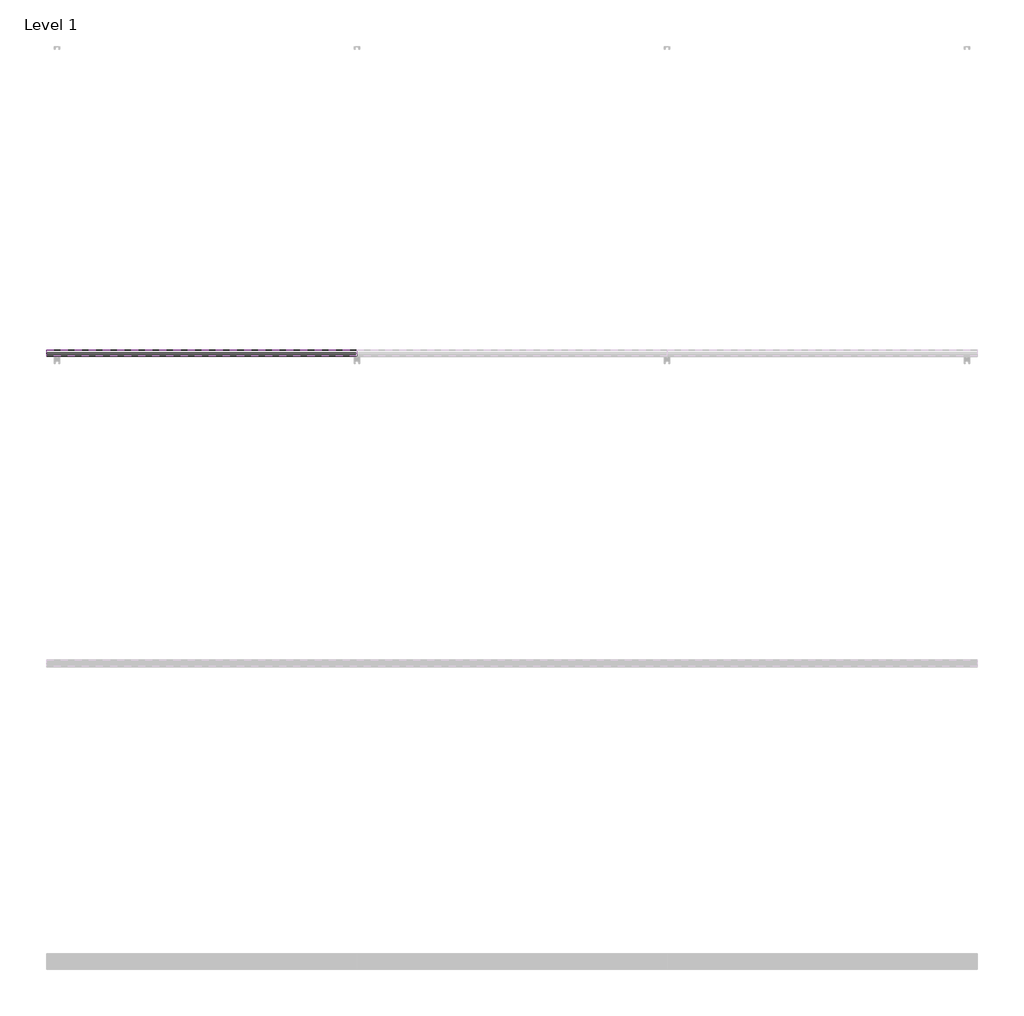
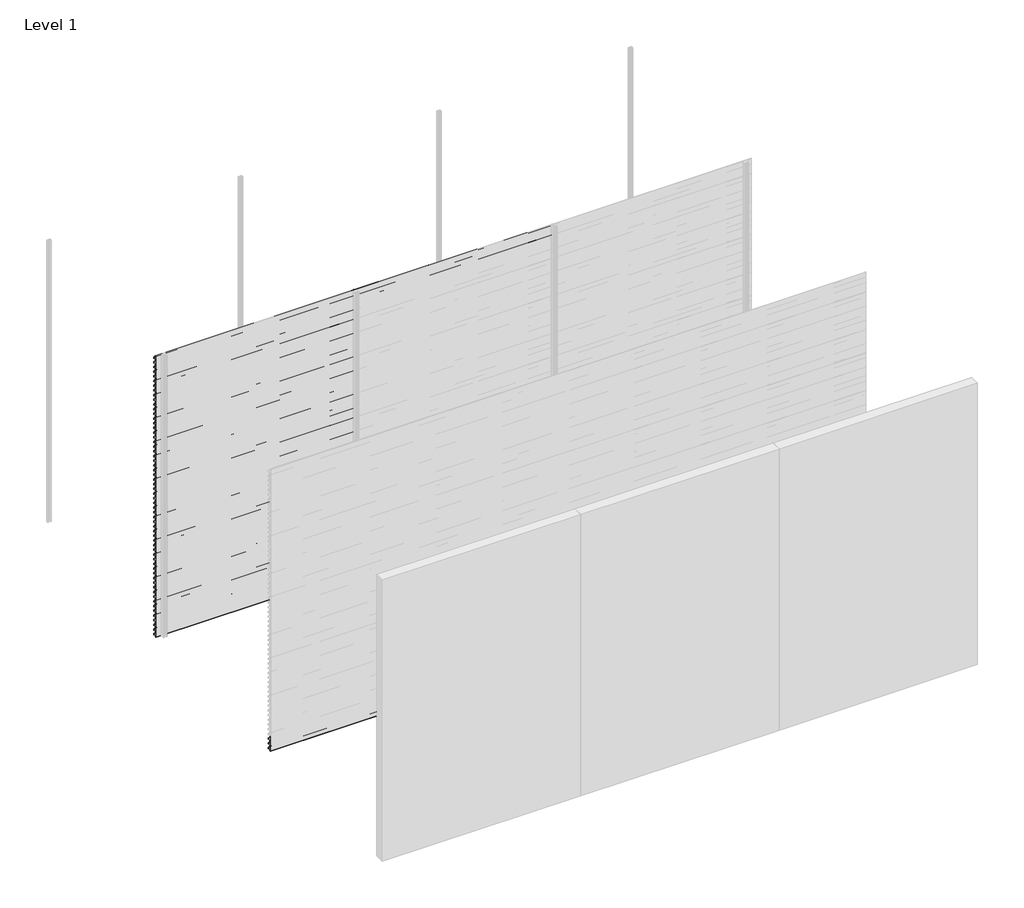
# One storey, part 29 of 38: 66 proxies.
"""IFC4 building model written with IfcOpenShell, lengths in millimetres."""

import ifcopenshell
import ifcopenshell.guid

model = None  # the IFC model being written
_history = None  # IfcOwnerHistory: only IFC2X3 demands one
_inside = {}  # id of a spatial element -> (the spatial element, [elements in it])
_under = {}  # id of a project, library or spatial element -> (it, [spatial elements below it])
_declared = {}  # id of a project -> (the project, [libraries it declares])
_typed = {}  # id of a type object -> (the type object, [elements of that type])
_made_of = {}  # id of a material, layer set ... -> (it, [elements and type objects made of it])


def new_model(schema):
    """Start an empty IFC model of exactly this schema.

    Asked for "IFC4X3", IfcOpenShell would pick the latest addendum, in which some entities
    have other attributes; the version numbers below select the first issue.
    IFC2X3 requires an IfcOwnerHistory on every rooted entity: one is made here for all.
    """
    global model, _history
    if schema == "IFC4X3":
        model = ifcopenshell.file(schema_version=(4, 3, 0, 0))
    else:
        model = ifcopenshell.file(schema=schema)
    _inside.clear()
    _under.clear()
    _declared.clear()
    _typed.clear()
    _made_of.clear()
    _history = None
    if model.schema == "IFC2X3":
        org = make("IfcOrganization", Name="unknown")
        user = make(
            "IfcPersonAndOrganization",
            ThePerson=make("IfcPerson", FamilyName="unknown"),
            TheOrganization=org,
        )
        app = make(
            "IfcApplication",
            ApplicationDeveloper=org,
            Version="unknown",
            ApplicationFullName="unknown",
            ApplicationIdentifier="unknown",
        )
        _history = make(
            "IfcOwnerHistory",
            OwningUser=user,
            OwningApplication=app,
            ChangeAction="ADDED",
            CreationDate=0,
        )
    return model


def make(cls, **values):
    """One entity of the class cls with the attributes given. An attribute that is None is left unset."""
    return model.create_entity(
        cls, **{name: value for name, value in values.items() if value is not None}
    )


def rooted(cls, **values):
    """An entity with a GlobalId (a new one), such as an element, a storey or a relation."""
    return make(cls, GlobalId=ifcopenshell.guid.new(), OwnerHistory=_history, **values)


def si_unit(unit_type, name, prefix=None):
    """IfcSIUnit, for example si_unit("LENGTHUNIT", "METRE", prefix="MILLI")."""
    return make("IfcSIUnit", UnitType=unit_type, Prefix=prefix, Name=name)


def assignment(units):
    """IfcUnitAssignment: the units of a project."""
    return None if units is None else make("IfcUnitAssignment", Units=units)


def point(xyz):
    """IfcCartesianPoint."""
    return None if xyz is None else make("IfcCartesianPoint", Coordinates=xyz)


def direction(xyz):
    """IfcDirection."""
    return None if xyz is None else make("IfcDirection", DirectionRatios=xyz)


def frame(location, z_axis=None, x_axis=None):
    """IfcAxis2Placement3D, a coordinate frame: its origin and axes. An axis left out is left unset."""
    return make(
        "IfcAxis2Placement3D",
        Location=point(location),
        Axis=direction(z_axis),
        RefDirection=direction(x_axis),
    )


def origin():
    """The frame at (0, 0, 0) with its axes left unset."""
    return frame((0.0, 0.0, 0.0))


def place(relative_to, where):
    """IfcLocalPlacement: puts the frame where relative to a parent placement (None: the world)."""
    return make(
        "IfcLocalPlacement", PlacementRelTo=relative_to, RelativePlacement=where
    )


def context(
    kind, dimensions, precision=None, world=None, true_north=None, identifier=None
):
    """IfcGeometricRepresentationContext, for example the 3D "Model" context."""
    return make(
        "IfcGeometricRepresentationContext",
        ContextIdentifier=identifier,
        ContextType=kind,
        CoordinateSpaceDimension=dimensions,
        Precision=precision,
        WorldCoordinateSystem=world,
        TrueNorth=true_north,
    )


def project(units=None, contexts=None):
    """IfcProject with its units and contexts."""
    return rooted(
        "IfcProject",
        Name="project",
        RepresentationContexts=contexts,
        UnitsInContext=assignment(units),
    )


def spatial(cls, under=None, at=None, **own):
    """A site, building, storey or space (cls), placed at a placement, below another one or the project."""
    s = rooted(cls, ObjectPlacement=at, **own)
    if under is not None:
        _under.setdefault(under.id(), (under, []))[1].append(s)
    return s


def polyline(points):
    """IfcPolyline through the points."""
    return make("IfcPolyline", Points=[point(p) for p in points])


def outline(outer, holes=None, kind="AREA"):
    """IfcArbitraryClosedProfileDef: a profile drawn as a closed curve; with holes, ...WithVoids."""
    if holes is None:
        return make("IfcArbitraryClosedProfileDef", ProfileType=kind, OuterCurve=outer)
    return make(
        "IfcArbitraryProfileDefWithVoids",
        ProfileType=kind,
        OuterCurve=outer,
        InnerCurves=holes,
    )


def extrude(swept, where, along, depth):
    """IfcExtrudedAreaSolid: the profile swept, set in the frame where, extruded along a direction by depth."""
    return make(
        "IfcExtrudedAreaSolid",
        SweptArea=swept,
        Position=where,
        ExtrudedDirection=direction(along),
        Depth=depth,
    )


def shape(context_of_items, identifier, shape_type, items):
    """IfcShapeRepresentation: the items that make up one representation, for example the "Body"."""
    return make(
        "IfcShapeRepresentation",
        ContextOfItems=context_of_items,
        RepresentationIdentifier=identifier,
        RepresentationType=shape_type,
        Items=items,
    )


def made_of(thing, what):
    """Note that an element or type object is made of a material, layer set ...; save() writes the relation."""
    if what is not None:
        _made_of.setdefault(what.id(), (what, []))[1].append(thing)
    return thing


def element(
    cls,
    number,
    at=None,
    inside=None,
    cuts=None,
    type_object=None,
    material=None,
    context=None,
    identifier="Body",
    shape_type=None,
    held_by="IfcProductDefinitionShape",
    body=None,
    shapes=None,
    **own,
):
    """One element of the class cls, such as IfcWall. Its Tag is "e" and its number.

    at: its placement. inside: the storey or other place that contains it. cuts: it is an
    opening in that element (IfcRelVoidsElement). A single representation is given by context,
    identifier, shape_type and body (its items); several are given by shapes. held_by: the class
    of the entity that holds the representations. save() writes the other relations.
    """
    e = rooted(cls, Tag="e%d" % number, ObjectPlacement=at, **own)
    if body is not None:
        shapes = [shape(context, identifier, shape_type, body)]
    if shapes is not None:
        e.Representation = make(held_by, Representations=shapes)
    if inside is not None:
        _inside.setdefault(inside.id(), (inside, []))[1].append(e)
    if cuts is not None:
        rooted(
            "IfcRelVoidsElement", RelatingBuildingElement=cuts, RelatedOpeningElement=e
        )
    if type_object is not None:
        _typed.setdefault(type_object.id(), (type_object, []))[1].append(e)
    return made_of(e, material)


def aggregate(whole, parts):
    """IfcRelAggregates: a whole, such as a stair, and the parts it consists of."""
    return rooted("IfcRelAggregates", RelatingObject=whole, RelatedObjects=parts)


def save(model, path):
    """Write the relations noted so far, then the file.

    IfcRelAggregates (storeys below a building ...), IfcRelContainedInSpatialStructure (elements
    in a storey), IfcRelDefinesByType, IfcRelAssociatesMaterial and IfcRelDeclares: one each for
    every whole, place, type object, material and project.
    """
    for whole, parts in _under.values():
        aggregate(whole, parts)
    for where, things in _inside.values():
        rooted(
            "IfcRelContainedInSpatialStructure",
            RelatedElements=things,
            RelatingStructure=where,
        )
    for kind, things in _typed.values():
        rooted("IfcRelDefinesByType", RelatedObjects=things, RelatingType=kind)
    for what, things in _made_of.values():
        rooted("IfcRelAssociatesMaterial", RelatedObjects=things, RelatingMaterial=what)
    for by, libraries in _declared.values():
        rooted("IfcRelDeclares", RelatingContext=by, RelatedDefinitions=libraries)
    model.write(path)


model = new_model("IFC4")

# Units and contexts
model_context = context("Model", 3, world=origin())
ifc_project = project(units=[si_unit("LENGTHUNIT", "METRE", prefix="MILLI")], contexts=[model_context])

# Site, building, storey
site = spatial("IfcSite", under=ifc_project)
building = spatial("IfcBuilding", under=site)
storey = spatial("IfcBuildingStorey", under=building, Name="Level 1", Elevation=0.0)

# Proxies
placement = place(None, origin())
element("IfcBuildingElementProxy", 1, Name="Wall Sweeps", at=placement, inside=storey, context=model_context, shape_type="SweptSolid", body=[
    extrude(outline(polyline([(-11996.75, 3000.0), (-11996.75, 2989.19656), (-11974.6057113, 2976.4115489), (-11957.0, 2959.0472005), (-11957.0, 2944.0472005), (-11958.3, 2945.0268207), (-11958.3, 2958.5034593), (-11969.4914725, 2969.541504), (-11994.2797376, 2940.0), (-11995.9767671, 2940.0), (-11970.4200307, 2970.4573323), (-11975.3999793, 2975.3690091), (-11998.0, 2988.4171371), (-11998.0, 3000.0), (-11996.75, 3000.0)])), frame((0.0, 0.0, 0.0), z_axis=(1.0, 0.0, 0.0), x_axis=(0.0, 1.0, 0.0)), (0.0, 0.0, 1.0), 2000.0),
])
element("IfcBuildingElementProxy", 2, Name="Wall Sweeps", at=placement, inside=storey, context=model_context, shape_type="SweptSolid", body=[
    extrude(outline(polyline([(-11996.75, 2950.0), (-11996.75, 2939.19656), (-11974.6057113, 2926.4115489), (-11957.0, 2909.0472005), (-11957.0, 2894.0472005), (-11958.3, 2895.0268207), (-11958.3, 2908.5034593), (-11969.4914725, 2919.541504), (-11994.2797376, 2890.0), (-11995.9767671, 2890.0), (-11970.4200307, 2920.4573323), (-11975.3999793, 2925.3690091), (-11998.0, 2938.4171371), (-11998.0, 2950.0), (-11996.75, 2950.0)])), frame((0.0, 0.0, 0.0), z_axis=(1.0, 0.0, 0.0), x_axis=(0.0, 1.0, 0.0)), (0.0, 0.0, 1.0), 2000.0),
])
element("IfcBuildingElementProxy", 3, Name="Wall Sweeps", at=placement, inside=storey, context=model_context, shape_type="SweptSolid", body=[
    extrude(outline(polyline([(-11996.75, 2900.0), (-11996.75, 2889.19656), (-11974.6057113, 2876.4115489), (-11957.0, 2859.0472005), (-11957.0, 2844.0472005), (-11958.3, 2845.0268207), (-11958.3, 2858.5034593), (-11969.4914725, 2869.541504), (-11994.2797376, 2840.0), (-11995.9767671, 2840.0), (-11970.4200307, 2870.4573323), (-11975.3999793, 2875.3690091), (-11998.0, 2888.4171371), (-11998.0, 2900.0), (-11996.75, 2900.0)])), frame((0.0, 0.0, 0.0), z_axis=(1.0, 0.0, 0.0), x_axis=(0.0, 1.0, 0.0)), (0.0, 0.0, 1.0), 2000.0),
])
element("IfcBuildingElementProxy", 4, Name="Wall Sweeps", at=placement, inside=storey, context=model_context, shape_type="SweptSolid", body=[
    extrude(outline(polyline([(-11996.75, 2850.0), (-11996.75, 2839.19656), (-11974.6057113, 2826.4115489), (-11957.0, 2809.0472005), (-11957.0, 2794.0472005), (-11958.3, 2795.0268207), (-11958.3, 2808.5034593), (-11969.4914725, 2819.541504), (-11994.2797376, 2790.0), (-11995.9767671, 2790.0), (-11970.4200307, 2820.4573323), (-11975.3999793, 2825.3690091), (-11998.0, 2838.4171371), (-11998.0, 2850.0), (-11996.75, 2850.0)])), frame((0.0, 0.0, 0.0), z_axis=(1.0, 0.0, 0.0), x_axis=(0.0, 1.0, 0.0)), (0.0, 0.0, 1.0), 2000.0),
])
element("IfcBuildingElementProxy", 5, Name="Wall Sweeps", at=placement, inside=storey, context=model_context, shape_type="SweptSolid", body=[
    extrude(outline(polyline([(-11996.75, 2800.0), (-11996.75, 2789.19656), (-11974.6057113, 2776.4115489), (-11957.0, 2759.0472005), (-11957.0, 2744.0472005), (-11958.3, 2745.0268207), (-11958.3, 2758.5034593), (-11969.4914725, 2769.541504), (-11994.2797376, 2740.0), (-11995.9767671, 2740.0), (-11970.4200307, 2770.4573323), (-11975.3999793, 2775.3690091), (-11998.0, 2788.4171371), (-11998.0, 2800.0), (-11996.75, 2800.0)])), frame((0.0, 0.0, 0.0), z_axis=(1.0, 0.0, 0.0), x_axis=(0.0, 1.0, 0.0)), (0.0, 0.0, 1.0), 2000.0),
])
element("IfcBuildingElementProxy", 6, Name="Wall Sweeps", at=placement, inside=storey, context=model_context, shape_type="SweptSolid", body=[
    extrude(outline(polyline([(-11996.75, 2750.0), (-11996.75, 2739.19656), (-11974.6057113, 2726.4115489), (-11957.0, 2709.0472005), (-11957.0, 2694.0472005), (-11958.3, 2695.0268207), (-11958.3, 2708.5034593), (-11969.4914725, 2719.541504), (-11994.2797376, 2690.0), (-11995.9767671, 2690.0), (-11970.4200307, 2720.4573323), (-11975.3999793, 2725.3690091), (-11998.0, 2738.4171371), (-11998.0, 2750.0), (-11996.75, 2750.0)])), frame((0.0, 0.0, 0.0), z_axis=(1.0, 0.0, 0.0), x_axis=(0.0, 1.0, 0.0)), (0.0, 0.0, 1.0), 2000.0),
])
element("IfcBuildingElementProxy", 7, Name="Wall Sweeps", at=placement, inside=storey, context=model_context, shape_type="SweptSolid", body=[
    extrude(outline(polyline([(-11996.75, 2700.0), (-11996.75, 2689.19656), (-11974.6057113, 2676.4115489), (-11957.0, 2659.0472005), (-11957.0, 2644.0472005), (-11958.3, 2645.0268207), (-11958.3, 2658.5034593), (-11969.4914725, 2669.541504), (-11994.2797376, 2640.0), (-11995.9767671, 2640.0), (-11970.4200307, 2670.4573323), (-11975.3999793, 2675.3690091), (-11998.0, 2688.4171371), (-11998.0, 2700.0), (-11996.75, 2700.0)])), frame((0.0, 0.0, 0.0), z_axis=(1.0, 0.0, 0.0), x_axis=(0.0, 1.0, 0.0)), (0.0, 0.0, 1.0), 2000.0),
])
element("IfcBuildingElementProxy", 8, Name="Wall Sweeps", at=placement, inside=storey, context=model_context, shape_type="SweptSolid", body=[
    extrude(outline(polyline([(-11996.75, 2650.0), (-11996.75, 2639.19656), (-11974.6057113, 2626.4115489), (-11957.0, 2609.0472005), (-11957.0, 2594.0472005), (-11958.3, 2595.0268207), (-11958.3, 2608.5034593), (-11969.4914725, 2619.541504), (-11994.2797376, 2590.0), (-11995.9767671, 2590.0), (-11970.4200307, 2620.4573323), (-11975.3999793, 2625.3690091), (-11998.0, 2638.4171371), (-11998.0, 2650.0), (-11996.75, 2650.0)])), frame((0.0, 0.0, 0.0), z_axis=(1.0, 0.0, 0.0), x_axis=(0.0, 1.0, 0.0)), (0.0, 0.0, 1.0), 2000.0),
])
element("IfcBuildingElementProxy", 9, Name="Wall Sweeps", at=placement, inside=storey, context=model_context, shape_type="SweptSolid", body=[
    extrude(outline(polyline([(-11996.75, 2600.0), (-11996.75, 2589.19656), (-11974.6057113, 2576.4115489), (-11957.0, 2559.0472005), (-11957.0, 2544.0472005), (-11958.3, 2545.0268207), (-11958.3, 2558.5034593), (-11969.4914725, 2569.541504), (-11994.2797376, 2540.0), (-11995.9767671, 2540.0), (-11970.4200307, 2570.4573323), (-11975.3999793, 2575.3690091), (-11998.0, 2588.4171371), (-11998.0, 2600.0), (-11996.75, 2600.0)])), frame((0.0, 0.0, 0.0), z_axis=(1.0, 0.0, 0.0), x_axis=(0.0, 1.0, 0.0)), (0.0, 0.0, 1.0), 2000.0),
])
element("IfcBuildingElementProxy", 10, Name="Wall Sweeps", at=placement, inside=storey, context=model_context, shape_type="SweptSolid", body=[
    extrude(outline(polyline([(-11996.75, 2550.0), (-11996.75, 2539.19656), (-11974.6057113, 2526.4115489), (-11957.0, 2509.0472005), (-11957.0, 2494.0472005), (-11958.3, 2495.0268207), (-11958.3, 2508.5034593), (-11969.4914725, 2519.541504), (-11994.2797376, 2490.0), (-11995.9767671, 2490.0), (-11970.4200307, 2520.4573323), (-11975.3999793, 2525.3690091), (-11998.0, 2538.4171371), (-11998.0, 2550.0), (-11996.75, 2550.0)])), frame((0.0, 0.0, 0.0), z_axis=(1.0, 0.0, 0.0), x_axis=(0.0, 1.0, 0.0)), (0.0, 0.0, 1.0), 2000.0),
])
element("IfcBuildingElementProxy", 11, Name="Wall Sweeps", at=placement, inside=storey, context=model_context, shape_type="SweptSolid", body=[
    extrude(outline(polyline([(-11996.75, 2500.0), (-11996.75, 2489.19656), (-11974.6057113, 2476.4115489), (-11957.0, 2459.0472005), (-11957.0, 2444.0472005), (-11958.3, 2445.0268207), (-11958.3, 2458.5034593), (-11969.4914725, 2469.541504), (-11994.2797376, 2440.0), (-11995.9767671, 2440.0), (-11970.4200307, 2470.4573323), (-11975.3999793, 2475.3690091), (-11998.0, 2488.4171371), (-11998.0, 2500.0), (-11996.75, 2500.0)])), frame((0.0, 0.0, 0.0), z_axis=(1.0, 0.0, 0.0), x_axis=(0.0, 1.0, 0.0)), (0.0, 0.0, 1.0), 2000.0),
])
element("IfcBuildingElementProxy", 12, Name="Wall Sweeps", at=placement, inside=storey, context=model_context, shape_type="SweptSolid", body=[
    extrude(outline(polyline([(-11996.75, 2450.0), (-11996.75, 2439.19656), (-11974.6057113, 2426.4115489), (-11957.0, 2409.0472005), (-11957.0, 2394.0472005), (-11958.3, 2395.0268207), (-11958.3, 2408.5034593), (-11969.4914725, 2419.541504), (-11994.2797376, 2390.0), (-11995.9767671, 2390.0), (-11970.4200307, 2420.4573323), (-11975.3999793, 2425.3690091), (-11998.0, 2438.4171371), (-11998.0, 2450.0), (-11996.75, 2450.0)])), frame((0.0, 0.0, 0.0), z_axis=(1.0, 0.0, 0.0), x_axis=(0.0, 1.0, 0.0)), (0.0, 0.0, 1.0), 2000.0),
])
element("IfcBuildingElementProxy", 13, Name="Wall Sweeps", at=placement, inside=storey, context=model_context, shape_type="SweptSolid", body=[
    extrude(outline(polyline([(-11996.75, 2400.0), (-11996.75, 2389.19656), (-11974.6057113, 2376.4115489), (-11957.0, 2359.0472005), (-11957.0, 2344.0472005), (-11958.3, 2345.0268207), (-11958.3, 2358.5034593), (-11969.4914725, 2369.541504), (-11994.2797376, 2340.0), (-11995.9767671, 2340.0), (-11970.4200307, 2370.4573323), (-11975.3999793, 2375.3690091), (-11998.0, 2388.4171371), (-11998.0, 2400.0), (-11996.75, 2400.0)])), frame((0.0, 0.0, 0.0), z_axis=(1.0, 0.0, 0.0), x_axis=(0.0, 1.0, 0.0)), (0.0, 0.0, 1.0), 2000.0),
])
element("IfcBuildingElementProxy", 14, Name="Wall Sweeps", at=placement, inside=storey, context=model_context, shape_type="SweptSolid", body=[
    extrude(outline(polyline([(-11996.75, 2350.0), (-11996.75, 2339.19656), (-11974.6057113, 2326.4115489), (-11957.0, 2309.0472005), (-11957.0, 2294.0472005), (-11958.3, 2295.0268207), (-11958.3, 2308.5034593), (-11969.4914725, 2319.541504), (-11994.2797376, 2290.0), (-11995.9767671, 2290.0), (-11970.4200307, 2320.4573323), (-11975.3999793, 2325.3690091), (-11998.0, 2338.4171371), (-11998.0, 2350.0), (-11996.75, 2350.0)])), frame((0.0, 0.0, 0.0), z_axis=(1.0, 0.0, 0.0), x_axis=(0.0, 1.0, 0.0)), (0.0, 0.0, 1.0), 2000.0),
])
element("IfcBuildingElementProxy", 15, Name="Wall Sweeps", at=placement, inside=storey, context=model_context, shape_type="SweptSolid", body=[
    extrude(outline(polyline([(-11996.75, 2300.0), (-11996.75, 2289.19656), (-11974.6057113, 2276.4115489), (-11957.0, 2259.0472005), (-11957.0, 2244.0472005), (-11958.3, 2245.0268207), (-11958.3, 2258.5034593), (-11969.4914725, 2269.541504), (-11994.2797376, 2240.0), (-11995.9767671, 2240.0), (-11970.4200307, 2270.4573323), (-11975.3999793, 2275.3690091), (-11998.0, 2288.4171371), (-11998.0, 2300.0), (-11996.75, 2300.0)])), frame((0.0, 0.0, 0.0), z_axis=(1.0, 0.0, 0.0), x_axis=(0.0, 1.0, 0.0)), (0.0, 0.0, 1.0), 2000.0),
])
element("IfcBuildingElementProxy", 16, Name="Wall Sweeps", at=placement, inside=storey, context=model_context, shape_type="SweptSolid", body=[
    extrude(outline(polyline([(-11996.75, 2250.0), (-11996.75, 2239.19656), (-11974.6057113, 2226.4115489), (-11957.0, 2209.0472005), (-11957.0, 2194.0472005), (-11958.3, 2195.0268207), (-11958.3, 2208.5034593), (-11969.4914725, 2219.541504), (-11994.2797376, 2190.0), (-11995.9767671, 2190.0), (-11970.4200307, 2220.4573323), (-11975.3999793, 2225.3690091), (-11998.0, 2238.4171371), (-11998.0, 2250.0), (-11996.75, 2250.0)])), frame((0.0, 0.0, 0.0), z_axis=(1.0, 0.0, 0.0), x_axis=(0.0, 1.0, 0.0)), (0.0, 0.0, 1.0), 2000.0),
])
element("IfcBuildingElementProxy", 17, Name="Wall Sweeps", at=placement, inside=storey, context=model_context, shape_type="SweptSolid", body=[
    extrude(outline(polyline([(-11996.75, 2200.0), (-11996.75, 2189.19656), (-11974.6057113, 2176.4115489), (-11957.0, 2159.0472005), (-11957.0, 2144.0472005), (-11958.3, 2145.0268207), (-11958.3, 2158.5034593), (-11969.4914725, 2169.541504), (-11994.2797376, 2140.0), (-11995.9767671, 2140.0), (-11970.4200307, 2170.4573323), (-11975.3999793, 2175.3690091), (-11998.0, 2188.4171371), (-11998.0, 2200.0), (-11996.75, 2200.0)])), frame((0.0, 0.0, 0.0), z_axis=(1.0, 0.0, 0.0), x_axis=(0.0, 1.0, 0.0)), (0.0, 0.0, 1.0), 2000.0),
])
element("IfcBuildingElementProxy", 18, Name="Wall Sweeps", at=placement, inside=storey, context=model_context, shape_type="SweptSolid", body=[
    extrude(outline(polyline([(-11996.75, 2150.0), (-11996.75, 2139.19656), (-11974.6057113, 2126.4115489), (-11957.0, 2109.0472005), (-11957.0, 2094.0472005), (-11958.3, 2095.0268207), (-11958.3, 2108.5034593), (-11969.4914725, 2119.541504), (-11994.2797376, 2090.0), (-11995.9767671, 2090.0), (-11970.4200307, 2120.4573323), (-11975.3999793, 2125.3690091), (-11998.0, 2138.4171371), (-11998.0, 2150.0), (-11996.75, 2150.0)])), frame((0.0, 0.0, 0.0), z_axis=(1.0, 0.0, 0.0), x_axis=(0.0, 1.0, 0.0)), (0.0, 0.0, 1.0), 2000.0),
])
element("IfcBuildingElementProxy", 19, Name="Wall Sweeps", at=placement, inside=storey, context=model_context, shape_type="SweptSolid", body=[
    extrude(outline(polyline([(-11996.75, 2100.0), (-11996.75, 2089.19656), (-11974.6057113, 2076.4115489), (-11957.0, 2059.0472005), (-11957.0, 2044.0472005), (-11958.3, 2045.0268207), (-11958.3, 2058.5034593), (-11969.4914725, 2069.541504), (-11994.2797376, 2040.0), (-11995.9767671, 2040.0), (-11970.4200307, 2070.4573323), (-11975.3999793, 2075.3690091), (-11998.0, 2088.4171371), (-11998.0, 2100.0), (-11996.75, 2100.0)])), frame((0.0, 0.0, 0.0), z_axis=(1.0, 0.0, 0.0), x_axis=(0.0, 1.0, 0.0)), (0.0, 0.0, 1.0), 2000.0),
])
element("IfcBuildingElementProxy", 20, Name="Wall Sweeps", at=placement, inside=storey, context=model_context, shape_type="SweptSolid", body=[
    extrude(outline(polyline([(-11996.75, 2050.0), (-11996.75, 2039.19656), (-11974.6057113, 2026.4115489), (-11957.0, 2009.0472005), (-11957.0, 1994.0472005), (-11958.3, 1995.0268207), (-11958.3, 2008.5034593), (-11969.4914725, 2019.541504), (-11994.2797376, 1990.0), (-11995.9767671, 1990.0), (-11970.4200307, 2020.4573323), (-11975.3999793, 2025.3690091), (-11998.0, 2038.4171371), (-11998.0, 2050.0), (-11996.75, 2050.0)])), frame((0.0, 0.0, 0.0), z_axis=(1.0, 0.0, 0.0), x_axis=(0.0, 1.0, 0.0)), (0.0, 0.0, 1.0), 2000.0),
])
element("IfcBuildingElementProxy", 21, Name="Wall Sweeps", at=placement, inside=storey, context=model_context, shape_type="SweptSolid", body=[
    extrude(outline(polyline([(-11996.75, 2000.0), (-11996.75, 1989.19656), (-11974.6057113, 1976.4115489), (-11957.0, 1959.0472005), (-11957.0, 1944.0472005), (-11958.3, 1945.0268207), (-11958.3, 1958.5034593), (-11969.4914725, 1969.541504), (-11994.2797376, 1940.0), (-11995.9767671, 1940.0), (-11970.4200307, 1970.4573323), (-11975.3999793, 1975.3690091), (-11998.0, 1988.4171371), (-11998.0, 2000.0), (-11996.75, 2000.0)])), frame((0.0, 0.0, 0.0), z_axis=(1.0, 0.0, 0.0), x_axis=(0.0, 1.0, 0.0)), (0.0, 0.0, 1.0), 2000.0),
])
element("IfcBuildingElementProxy", 22, Name="Wall Sweeps", at=placement, inside=storey, context=model_context, shape_type="SweptSolid", body=[
    extrude(outline(polyline([(-11996.75, 1950.0), (-11996.75, 1939.19656), (-11974.6057113, 1926.4115489), (-11957.0, 1909.0472005), (-11957.0, 1894.0472005), (-11958.3, 1895.0268207), (-11958.3, 1908.5034593), (-11969.4914725, 1919.541504), (-11994.2797376, 1890.0), (-11995.9767671, 1890.0), (-11970.4200307, 1920.4573323), (-11975.3999793, 1925.3690091), (-11998.0, 1938.4171371), (-11998.0, 1950.0), (-11996.75, 1950.0)])), frame((0.0, 0.0, 0.0), z_axis=(1.0, 0.0, 0.0), x_axis=(0.0, 1.0, 0.0)), (0.0, 0.0, 1.0), 2000.0),
])
element("IfcBuildingElementProxy", 23, Name="Wall Sweeps", at=placement, inside=storey, context=model_context, shape_type="SweptSolid", body=[
    extrude(outline(polyline([(-11996.75, 1900.0), (-11996.75, 1889.19656), (-11974.6057113, 1876.4115489), (-11957.0, 1859.0472005), (-11957.0, 1844.0472005), (-11958.3, 1845.0268207), (-11958.3, 1858.5034593), (-11969.4914725, 1869.541504), (-11994.2797376, 1840.0), (-11995.9767671, 1840.0), (-11970.4200307, 1870.4573323), (-11975.3999793, 1875.3690091), (-11998.0, 1888.4171371), (-11998.0, 1900.0), (-11996.75, 1900.0)])), frame((0.0, 0.0, 0.0), z_axis=(1.0, 0.0, 0.0), x_axis=(0.0, 1.0, 0.0)), (0.0, 0.0, 1.0), 2000.0),
])
element("IfcBuildingElementProxy", 24, Name="Wall Sweeps", at=placement, inside=storey, context=model_context, shape_type="SweptSolid", body=[
    extrude(outline(polyline([(-11996.75, 1850.0), (-11996.75, 1839.19656), (-11974.6057113, 1826.4115489), (-11957.0, 1809.0472005), (-11957.0, 1794.0472005), (-11958.3, 1795.0268207), (-11958.3, 1808.5034593), (-11969.4914725, 1819.541504), (-11994.2797376, 1790.0), (-11995.9767671, 1790.0), (-11970.4200307, 1820.4573323), (-11975.3999793, 1825.3690091), (-11998.0, 1838.4171371), (-11998.0, 1850.0), (-11996.75, 1850.0)])), frame((0.0, 0.0, 0.0), z_axis=(1.0, 0.0, 0.0), x_axis=(0.0, 1.0, 0.0)), (0.0, 0.0, 1.0), 2000.0),
])
element("IfcBuildingElementProxy", 25, Name="Wall Sweeps", at=placement, inside=storey, context=model_context, shape_type="SweptSolid", body=[
    extrude(outline(polyline([(-11996.75, 1800.0), (-11996.75, 1789.19656), (-11974.6057113, 1776.4115489), (-11957.0, 1759.0472005), (-11957.0, 1744.0472005), (-11958.3, 1745.0268207), (-11958.3, 1758.5034593), (-11969.4914725, 1769.541504), (-11994.2797376, 1740.0), (-11995.9767671, 1740.0), (-11970.4200307, 1770.4573323), (-11975.3999793, 1775.3690091), (-11998.0, 1788.4171371), (-11998.0, 1800.0), (-11996.75, 1800.0)])), frame((0.0, 0.0, 0.0), z_axis=(1.0, 0.0, 0.0), x_axis=(0.0, 1.0, 0.0)), (0.0, 0.0, 1.0), 2000.0),
])
element("IfcBuildingElementProxy", 26, Name="Wall Sweeps", at=placement, inside=storey, context=model_context, shape_type="SweptSolid", body=[
    extrude(outline(polyline([(-11996.75, 1750.0), (-11996.75, 1739.19656), (-11974.6057113, 1726.4115489), (-11957.0, 1709.0472005), (-11957.0, 1694.0472005), (-11958.3, 1695.0268207), (-11958.3, 1708.5034593), (-11969.4914725, 1719.541504), (-11994.2797376, 1690.0), (-11995.9767671, 1690.0), (-11970.4200307, 1720.4573323), (-11975.3999793, 1725.3690091), (-11998.0, 1738.4171371), (-11998.0, 1750.0), (-11996.75, 1750.0)])), frame((0.0, 0.0, 0.0), z_axis=(1.0, 0.0, 0.0), x_axis=(0.0, 1.0, 0.0)), (0.0, 0.0, 1.0), 2000.0),
])
element("IfcBuildingElementProxy", 27, Name="Wall Sweeps", at=placement, inside=storey, context=model_context, shape_type="SweptSolid", body=[
    extrude(outline(polyline([(-11996.75, 1700.0), (-11996.75, 1689.19656), (-11974.6057113, 1676.4115489), (-11957.0, 1659.0472005), (-11957.0, 1644.0472005), (-11958.3, 1645.0268207), (-11958.3, 1658.5034593), (-11969.4914725, 1669.541504), (-11994.2797376, 1640.0), (-11995.9767671, 1640.0), (-11970.4200307, 1670.4573323), (-11975.3999793, 1675.3690091), (-11998.0, 1688.4171371), (-11998.0, 1700.0), (-11996.75, 1700.0)])), frame((0.0, 0.0, 0.0), z_axis=(1.0, 0.0, 0.0), x_axis=(0.0, 1.0, 0.0)), (0.0, 0.0, 1.0), 2000.0),
])
element("IfcBuildingElementProxy", 28, Name="Wall Sweeps", at=placement, inside=storey, context=model_context, shape_type="SweptSolid", body=[
    extrude(outline(polyline([(-11996.75, 1650.0), (-11996.75, 1639.19656), (-11974.6057113, 1626.4115489), (-11957.0, 1609.0472005), (-11957.0, 1594.0472005), (-11958.3, 1595.0268207), (-11958.3, 1608.5034593), (-11969.4914725, 1619.541504), (-11994.2797376, 1590.0), (-11995.9767671, 1590.0), (-11970.4200307, 1620.4573323), (-11975.3999793, 1625.3690091), (-11998.0, 1638.4171371), (-11998.0, 1650.0), (-11996.75, 1650.0)])), frame((0.0, 0.0, 0.0), z_axis=(1.0, 0.0, 0.0), x_axis=(0.0, 1.0, 0.0)), (0.0, 0.0, 1.0), 2000.0),
])
element("IfcBuildingElementProxy", 29, Name="Wall Sweeps", at=placement, inside=storey, context=model_context, shape_type="SweptSolid", body=[
    extrude(outline(polyline([(-11996.75, 1600.0), (-11996.75, 1589.19656), (-11974.6057113, 1576.4115489), (-11957.0, 1559.0472005), (-11957.0, 1544.0472005), (-11958.3, 1545.0268207), (-11958.3, 1558.5034593), (-11969.4914725, 1569.541504), (-11994.2797376, 1540.0), (-11995.9767671, 1540.0), (-11970.4200307, 1570.4573323), (-11975.3999793, 1575.3690091), (-11998.0, 1588.4171371), (-11998.0, 1600.0), (-11996.75, 1600.0)])), frame((0.0, 0.0, 0.0), z_axis=(1.0, 0.0, 0.0), x_axis=(0.0, 1.0, 0.0)), (0.0, 0.0, 1.0), 2000.0),
])
element("IfcBuildingElementProxy", 30, Name="Wall Sweeps", at=placement, inside=storey, context=model_context, shape_type="SweptSolid", body=[
    extrude(outline(polyline([(-11996.75, 1550.0), (-11996.75, 1539.19656), (-11974.6057113, 1526.4115489), (-11957.0, 1509.0472005), (-11957.0, 1494.0472005), (-11958.3, 1495.0268207), (-11958.3, 1508.5034593), (-11969.4914725, 1519.541504), (-11994.2797376, 1490.0), (-11995.9767671, 1490.0), (-11970.4200307, 1520.4573323), (-11975.3999793, 1525.3690091), (-11998.0, 1538.4171371), (-11998.0, 1550.0), (-11996.75, 1550.0)])), frame((0.0, 0.0, 0.0), z_axis=(1.0, 0.0, 0.0), x_axis=(0.0, 1.0, 0.0)), (0.0, 0.0, 1.0), 2000.0),
])
element("IfcBuildingElementProxy", 31, Name="Wall Sweeps", at=placement, inside=storey, context=model_context, shape_type="SweptSolid", body=[
    extrude(outline(polyline([(-11996.75, 1500.0), (-11996.75, 1489.19656), (-11974.6057113, 1476.4115489), (-11957.0, 1459.0472005), (-11957.0, 1444.0472005), (-11958.3, 1445.0268207), (-11958.3, 1458.5034593), (-11969.4914725, 1469.541504), (-11994.2797376, 1440.0), (-11995.9767671, 1440.0), (-11970.4200307, 1470.4573323), (-11975.3999793, 1475.3690091), (-11998.0, 1488.4171371), (-11998.0, 1500.0), (-11996.75, 1500.0)])), frame((0.0, 0.0, 0.0), z_axis=(1.0, 0.0, 0.0), x_axis=(0.0, 1.0, 0.0)), (0.0, 0.0, 1.0), 2000.0),
])
element("IfcBuildingElementProxy", 32, Name="Wall Sweeps", at=placement, inside=storey, context=model_context, shape_type="SweptSolid", body=[
    extrude(outline(polyline([(-11996.75, 1450.0), (-11996.75, 1439.19656), (-11974.6057113, 1426.4115489), (-11957.0, 1409.0472005), (-11957.0, 1394.0472005), (-11958.3, 1395.0268207), (-11958.3, 1408.5034593), (-11969.4914725, 1419.541504), (-11994.2797376, 1390.0), (-11995.9767671, 1390.0), (-11970.4200307, 1420.4573323), (-11975.3999793, 1425.3690091), (-11998.0, 1438.4171371), (-11998.0, 1450.0), (-11996.75, 1450.0)])), frame((0.0, 0.0, 0.0), z_axis=(1.0, 0.0, 0.0), x_axis=(0.0, 1.0, 0.0)), (0.0, 0.0, 1.0), 2000.0),
])
element("IfcBuildingElementProxy", 33, Name="Wall Sweeps", at=placement, inside=storey, context=model_context, shape_type="SweptSolid", body=[
    extrude(outline(polyline([(-11996.75, 1400.0), (-11996.75, 1389.19656), (-11974.6057113, 1376.4115489), (-11957.0, 1359.0472005), (-11957.0, 1344.0472005), (-11958.3, 1345.0268207), (-11958.3, 1358.5034593), (-11969.4914725, 1369.541504), (-11994.2797376, 1340.0), (-11995.9767671, 1340.0), (-11970.4200307, 1370.4573323), (-11975.3999793, 1375.3690091), (-11998.0, 1388.4171371), (-11998.0, 1400.0), (-11996.75, 1400.0)])), frame((0.0, 0.0, 0.0), z_axis=(1.0, 0.0, 0.0), x_axis=(0.0, 1.0, 0.0)), (0.0, 0.0, 1.0), 2000.0),
])
element("IfcBuildingElementProxy", 34, Name="Wall Sweeps", at=placement, inside=storey, context=model_context, shape_type="SweptSolid", body=[
    extrude(outline(polyline([(-11996.75, 1350.0), (-11996.75, 1339.19656), (-11974.6057113, 1326.4115489), (-11957.0, 1309.0472005), (-11957.0, 1294.0472005), (-11958.3, 1295.0268207), (-11958.3, 1308.5034593), (-11969.4914725, 1319.541504), (-11994.2797376, 1290.0), (-11995.9767671, 1290.0), (-11970.4200307, 1320.4573323), (-11975.3999793, 1325.3690091), (-11998.0, 1338.4171371), (-11998.0, 1350.0), (-11996.75, 1350.0)])), frame((0.0, 0.0, 0.0), z_axis=(1.0, 0.0, 0.0), x_axis=(0.0, 1.0, 0.0)), (0.0, 0.0, 1.0), 2000.0),
])
element("IfcBuildingElementProxy", 35, Name="Wall Sweeps", at=placement, inside=storey, context=model_context, shape_type="SweptSolid", body=[
    extrude(outline(polyline([(-11996.75, 1300.0), (-11996.75, 1289.19656), (-11974.6057113, 1276.4115489), (-11957.0, 1259.0472005), (-11957.0, 1244.0472005), (-11958.3, 1245.0268207), (-11958.3, 1258.5034593), (-11969.4914725, 1269.541504), (-11994.2797376, 1240.0), (-11995.9767671, 1240.0), (-11970.4200307, 1270.4573323), (-11975.3999793, 1275.3690091), (-11998.0, 1288.4171371), (-11998.0, 1300.0), (-11996.75, 1300.0)])), frame((0.0, 0.0, 0.0), z_axis=(1.0, 0.0, 0.0), x_axis=(0.0, 1.0, 0.0)), (0.0, 0.0, 1.0), 2000.0),
])
element("IfcBuildingElementProxy", 36, Name="Wall Sweeps", at=placement, inside=storey, context=model_context, shape_type="SweptSolid", body=[
    extrude(outline(polyline([(-11996.75, 1250.0), (-11996.75, 1239.19656), (-11974.6057113, 1226.4115489), (-11957.0, 1209.0472005), (-11957.0, 1194.0472005), (-11958.3, 1195.0268207), (-11958.3, 1208.5034593), (-11969.4914725, 1219.541504), (-11994.2797376, 1190.0), (-11995.9767671, 1190.0), (-11970.4200307, 1220.4573323), (-11975.3999793, 1225.3690091), (-11998.0, 1238.4171371), (-11998.0, 1250.0), (-11996.75, 1250.0)])), frame((0.0, 0.0, 0.0), z_axis=(1.0, 0.0, 0.0), x_axis=(0.0, 1.0, 0.0)), (0.0, 0.0, 1.0), 2000.0),
])
element("IfcBuildingElementProxy", 37, Name="Wall Sweeps", at=placement, inside=storey, context=model_context, shape_type="SweptSolid", body=[
    extrude(outline(polyline([(-11996.75, 1200.0), (-11996.75, 1189.19656), (-11974.6057113, 1176.4115489), (-11957.0, 1159.0472005), (-11957.0, 1144.0472005), (-11958.3, 1145.0268207), (-11958.3, 1158.5034593), (-11969.4914725, 1169.541504), (-11994.2797376, 1140.0), (-11995.9767671, 1140.0), (-11970.4200307, 1170.4573323), (-11975.3999793, 1175.3690091), (-11998.0, 1188.4171371), (-11998.0, 1200.0), (-11996.75, 1200.0)])), frame((0.0, 0.0, 0.0), z_axis=(1.0, 0.0, 0.0), x_axis=(0.0, 1.0, 0.0)), (0.0, 0.0, 1.0), 2000.0),
])
element("IfcBuildingElementProxy", 38, Name="Wall Sweeps", at=placement, inside=storey, context=model_context, shape_type="SweptSolid", body=[
    extrude(outline(polyline([(-11996.75, 1150.0), (-11996.75, 1139.19656), (-11974.6057113, 1126.4115489), (-11957.0, 1109.0472005), (-11957.0, 1094.0472005), (-11958.3, 1095.0268207), (-11958.3, 1108.5034593), (-11969.4914725, 1119.541504), (-11994.2797376, 1090.0), (-11995.9767671, 1090.0), (-11970.4200307, 1120.4573323), (-11975.3999793, 1125.3690091), (-11998.0, 1138.4171371), (-11998.0, 1150.0), (-11996.75, 1150.0)])), frame((0.0, 0.0, 0.0), z_axis=(1.0, 0.0, 0.0), x_axis=(0.0, 1.0, 0.0)), (0.0, 0.0, 1.0), 2000.0),
])
element("IfcBuildingElementProxy", 39, Name="Wall Sweeps", at=placement, inside=storey, context=model_context, shape_type="SweptSolid", body=[
    extrude(outline(polyline([(-11996.75, 1100.0), (-11996.75, 1089.19656), (-11974.6057113, 1076.4115489), (-11957.0, 1059.0472005), (-11957.0, 1044.0472005), (-11958.3, 1045.0268207), (-11958.3, 1058.5034593), (-11969.4914725, 1069.541504), (-11994.2797376, 1040.0), (-11995.9767671, 1040.0), (-11970.4200307, 1070.4573323), (-11975.3999793, 1075.3690091), (-11998.0, 1088.4171371), (-11998.0, 1100.0), (-11996.75, 1100.0)])), frame((0.0, 0.0, 0.0), z_axis=(1.0, 0.0, 0.0), x_axis=(0.0, 1.0, 0.0)), (0.0, 0.0, 1.0), 2000.0),
])
element("IfcBuildingElementProxy", 40, Name="Wall Sweeps", at=placement, inside=storey, context=model_context, shape_type="SweptSolid", body=[
    extrude(outline(polyline([(-11996.75, 1050.0), (-11996.75, 1039.19656), (-11974.6057113, 1026.4115489), (-11957.0, 1009.0472005), (-11957.0, 994.0472005), (-11958.3, 995.0268207), (-11958.3, 1008.5034593), (-11969.4914725, 1019.541504), (-11994.2797376, 990.0), (-11995.9767671, 990.0), (-11970.4200307, 1020.4573323), (-11975.3999793, 1025.3690091), (-11998.0, 1038.4171371), (-11998.0, 1050.0), (-11996.75, 1050.0)])), frame((0.0, 0.0, 0.0), z_axis=(1.0, 0.0, 0.0), x_axis=(0.0, 1.0, 0.0)), (0.0, 0.0, 1.0), 2000.0),
])
element("IfcBuildingElementProxy", 41, Name="Wall Sweeps", at=placement, inside=storey, context=model_context, shape_type="SweptSolid", body=[
    extrude(outline(polyline([(-11996.75, 1000.0), (-11996.75, 989.19656), (-11974.6057113, 976.4115489), (-11957.0, 959.0472005), (-11957.0, 944.0472005), (-11958.3, 945.0268207), (-11958.3, 958.5034593), (-11969.4914725, 969.541504), (-11994.2797376, 940.0), (-11995.9767671, 940.0), (-11970.4200307, 970.4573323), (-11975.3999793, 975.3690091), (-11998.0, 988.4171371), (-11998.0, 1000.0), (-11996.75, 1000.0)])), frame((0.0, 0.0, 0.0), z_axis=(1.0, 0.0, 0.0), x_axis=(0.0, 1.0, 0.0)), (0.0, 0.0, 1.0), 2000.0),
])
element("IfcBuildingElementProxy", 42, Name="Wall Sweeps", at=placement, inside=storey, context=model_context, shape_type="SweptSolid", body=[
    extrude(outline(polyline([(-11996.75, 950.0), (-11996.75, 939.19656), (-11974.6057113, 926.4115489), (-11957.0, 909.0472005), (-11957.0, 894.0472005), (-11958.3, 895.0268207), (-11958.3, 908.5034593), (-11969.4914725, 919.541504), (-11994.2797376, 890.0), (-11995.9767671, 890.0), (-11970.4200307, 920.4573323), (-11975.3999793, 925.3690091), (-11998.0, 938.4171371), (-11998.0, 950.0), (-11996.75, 950.0)])), frame((0.0, 0.0, 0.0), z_axis=(1.0, 0.0, 0.0), x_axis=(0.0, 1.0, 0.0)), (0.0, 0.0, 1.0), 2000.0),
])
element("IfcBuildingElementProxy", 43, Name="Wall Sweeps", at=placement, inside=storey, context=model_context, shape_type="SweptSolid", body=[
    extrude(outline(polyline([(-11996.75, 900.0), (-11996.75, 889.19656), (-11974.6057113, 876.4115489), (-11957.0, 859.0472005), (-11957.0, 844.0472005), (-11958.3, 845.0268207), (-11958.3, 858.5034593), (-11969.4914725, 869.541504), (-11994.2797376, 840.0), (-11995.9767671, 840.0), (-11970.4200307, 870.4573323), (-11975.3999793, 875.3690091), (-11998.0, 888.4171371), (-11998.0, 900.0), (-11996.75, 900.0)])), frame((0.0, 0.0, 0.0), z_axis=(1.0, 0.0, 0.0), x_axis=(0.0, 1.0, 0.0)), (0.0, 0.0, 1.0), 2000.0),
])
element("IfcBuildingElementProxy", 44, Name="Wall Sweeps", at=placement, inside=storey, context=model_context, shape_type="SweptSolid", body=[
    extrude(outline(polyline([(-11996.75, 850.0), (-11996.75, 839.19656), (-11974.6057113, 826.4115489), (-11957.0, 809.0472005), (-11957.0, 794.0472005), (-11958.3, 795.0268207), (-11958.3, 808.5034593), (-11969.4914725, 819.541504), (-11994.2797376, 790.0), (-11995.9767671, 790.0), (-11970.4200307, 820.4573323), (-11975.3999793, 825.3690091), (-11998.0, 838.4171371), (-11998.0, 850.0), (-11996.75, 850.0)])), frame((0.0, 0.0, 0.0), z_axis=(1.0, 0.0, 0.0), x_axis=(0.0, 1.0, 0.0)), (0.0, 0.0, 1.0), 2000.0),
])
element("IfcBuildingElementProxy", 45, Name="Wall Sweeps", at=placement, inside=storey, context=model_context, shape_type="SweptSolid", body=[
    extrude(outline(polyline([(-11996.75, 800.0), (-11996.75, 789.19656), (-11974.6057113, 776.4115489), (-11957.0, 759.0472005), (-11957.0, 744.0472005), (-11958.3, 745.0268207), (-11958.3, 758.5034593), (-11969.4914725, 769.541504), (-11994.2797376, 740.0), (-11995.9767671, 740.0), (-11970.4200307, 770.4573323), (-11975.3999793, 775.3690091), (-11998.0, 788.4171371), (-11998.0, 800.0), (-11996.75, 800.0)])), frame((0.0, 0.0, 0.0), z_axis=(1.0, 0.0, 0.0), x_axis=(0.0, 1.0, 0.0)), (0.0, 0.0, 1.0), 2000.0),
])
element("IfcBuildingElementProxy", 46, Name="Wall Sweeps", at=placement, inside=storey, context=model_context, shape_type="SweptSolid", body=[
    extrude(outline(polyline([(-11996.75, 750.0), (-11996.75, 739.19656), (-11974.6057113, 726.4115489), (-11957.0, 709.0472005), (-11957.0, 694.0472005), (-11958.3, 695.0268207), (-11958.3, 708.5034593), (-11969.4914725, 719.541504), (-11994.2797376, 690.0), (-11995.9767671, 690.0), (-11970.4200307, 720.4573323), (-11975.3999793, 725.3690091), (-11998.0, 738.4171371), (-11998.0, 750.0), (-11996.75, 750.0)])), frame((0.0, 0.0, 0.0), z_axis=(1.0, 0.0, 0.0), x_axis=(0.0, 1.0, 0.0)), (0.0, 0.0, 1.0), 2000.0),
])
element("IfcBuildingElementProxy", 47, Name="Wall Sweeps", at=placement, inside=storey, context=model_context, shape_type="SweptSolid", body=[
    extrude(outline(polyline([(-11996.75, 700.0), (-11996.75, 689.19656), (-11974.6057113, 676.4115489), (-11957.0, 659.0472005), (-11957.0, 644.0472005), (-11958.3, 645.0268207), (-11958.3, 658.5034593), (-11969.4914725, 669.541504), (-11994.2797376, 640.0), (-11995.9767671, 640.0), (-11970.4200307, 670.4573323), (-11975.3999793, 675.3690091), (-11998.0, 688.4171371), (-11998.0, 700.0), (-11996.75, 700.0)])), frame((0.0, 0.0, 0.0), z_axis=(1.0, 0.0, 0.0), x_axis=(0.0, 1.0, 0.0)), (0.0, 0.0, 1.0), 2000.0),
])
element("IfcBuildingElementProxy", 48, Name="Wall Sweeps", at=placement, inside=storey, context=model_context, shape_type="SweptSolid", body=[
    extrude(outline(polyline([(-11996.75, 650.0), (-11996.75, 639.19656), (-11974.6057113, 626.4115489), (-11957.0, 609.0472005), (-11957.0, 594.0472005), (-11958.3, 595.0268207), (-11958.3, 608.5034593), (-11969.4914725, 619.541504), (-11994.2797376, 590.0), (-11995.9767671, 590.0), (-11970.4200307, 620.4573323), (-11975.3999793, 625.3690091), (-11998.0, 638.4171371), (-11998.0, 650.0), (-11996.75, 650.0)])), frame((0.0, 0.0, 0.0), z_axis=(1.0, 0.0, 0.0), x_axis=(0.0, 1.0, 0.0)), (0.0, 0.0, 1.0), 2000.0),
])
element("IfcBuildingElementProxy", 49, Name="Wall Sweeps", at=placement, inside=storey, context=model_context, shape_type="SweptSolid", body=[
    extrude(outline(polyline([(-11996.75, 600.0), (-11996.75, 589.19656), (-11974.6057113, 576.4115489), (-11957.0, 559.0472005), (-11957.0, 544.0472005), (-11958.3, 545.0268207), (-11958.3, 558.5034593), (-11969.4914725, 569.541504), (-11994.2797376, 540.0), (-11995.9767671, 540.0), (-11970.4200307, 570.4573323), (-11975.3999793, 575.3690091), (-11998.0, 588.4171371), (-11998.0, 600.0), (-11996.75, 600.0)])), frame((0.0, 0.0, 0.0), z_axis=(1.0, 0.0, 0.0), x_axis=(0.0, 1.0, 0.0)), (0.0, 0.0, 1.0), 2000.0),
])
element("IfcBuildingElementProxy", 50, Name="Wall Sweeps", at=placement, inside=storey, context=model_context, shape_type="SweptSolid", body=[
    extrude(outline(polyline([(-11996.75, 550.0), (-11996.75, 539.19656), (-11974.6057113, 526.4115489), (-11957.0, 509.0472005), (-11957.0, 494.0472005), (-11958.3, 495.0268207), (-11958.3, 508.5034593), (-11969.4914725, 519.541504), (-11994.2797376, 490.0), (-11995.9767671, 490.0), (-11970.4200307, 520.4573323), (-11975.3999793, 525.3690091), (-11998.0, 538.4171371), (-11998.0, 550.0), (-11996.75, 550.0)])), frame((0.0, 0.0, 0.0), z_axis=(1.0, 0.0, 0.0), x_axis=(0.0, 1.0, 0.0)), (0.0, 0.0, 1.0), 2000.0),
])
element("IfcBuildingElementProxy", 51, Name="Wall Sweeps", at=placement, inside=storey, context=model_context, shape_type="SweptSolid", body=[
    extrude(outline(polyline([(-11996.75, 500.0), (-11996.75, 489.19656), (-11974.6057113, 476.4115489), (-11957.0, 459.0472005), (-11957.0, 444.0472005), (-11958.3, 445.0268207), (-11958.3, 458.5034593), (-11969.4914725, 469.541504), (-11994.2797376, 440.0), (-11995.9767671, 440.0), (-11970.4200307, 470.4573323), (-11975.3999793, 475.3690091), (-11998.0, 488.4171371), (-11998.0, 500.0), (-11996.75, 500.0)])), frame((0.0, 0.0, 0.0), z_axis=(1.0, 0.0, 0.0), x_axis=(0.0, 1.0, 0.0)), (0.0, 0.0, 1.0), 2000.0),
])
element("IfcBuildingElementProxy", 52, Name="Wall Sweeps", at=placement, inside=storey, context=model_context, shape_type="SweptSolid", body=[
    extrude(outline(polyline([(-11996.75, 450.0), (-11996.75, 439.19656), (-11974.6057113, 426.4115489), (-11957.0, 409.0472005), (-11957.0, 394.0472005), (-11958.3, 395.0268207), (-11958.3, 408.5034593), (-11969.4914725, 419.541504), (-11994.2797376, 390.0), (-11995.9767671, 390.0), (-11970.4200307, 420.4573323), (-11975.3999793, 425.3690091), (-11998.0, 438.4171371), (-11998.0, 450.0), (-11996.75, 450.0)])), frame((0.0, 0.0, 0.0), z_axis=(1.0, 0.0, 0.0), x_axis=(0.0, 1.0, 0.0)), (0.0, 0.0, 1.0), 2000.0),
])
element("IfcBuildingElementProxy", 53, Name="Wall Sweeps", at=placement, inside=storey, context=model_context, shape_type="SweptSolid", body=[
    extrude(outline(polyline([(-11996.75, 400.0), (-11996.75, 389.19656), (-11974.6057113, 376.4115489), (-11957.0, 359.0472005), (-11957.0, 344.0472005), (-11958.3, 345.0268207), (-11958.3, 358.5034593), (-11969.4914725, 369.541504), (-11994.2797376, 340.0), (-11995.9767671, 340.0), (-11970.4200307, 370.4573323), (-11975.3999793, 375.3690091), (-11998.0, 388.4171371), (-11998.0, 400.0), (-11996.75, 400.0)])), frame((0.0, 0.0, 0.0), z_axis=(1.0, 0.0, 0.0), x_axis=(0.0, 1.0, 0.0)), (0.0, 0.0, 1.0), 2000.0),
])
element("IfcBuildingElementProxy", 54, Name="Wall Sweeps", at=placement, inside=storey, context=model_context, shape_type="SweptSolid", body=[
    extrude(outline(polyline([(-11996.75, 350.0), (-11996.75, 339.19656), (-11974.6057113, 326.4115489), (-11957.0, 309.0472005), (-11957.0, 294.0472005), (-11958.3, 295.0268207), (-11958.3, 308.5034593), (-11969.4914725, 319.541504), (-11994.2797376, 290.0), (-11995.9767671, 290.0), (-11970.4200307, 320.4573323), (-11975.3999793, 325.3690091), (-11998.0, 338.4171371), (-11998.0, 350.0), (-11996.75, 350.0)])), frame((0.0, 0.0, 0.0), z_axis=(1.0, 0.0, 0.0), x_axis=(0.0, 1.0, 0.0)), (0.0, 0.0, 1.0), 2000.0),
])
element("IfcBuildingElementProxy", 55, Name="Wall Sweeps", at=placement, inside=storey, context=model_context, shape_type="SweptSolid", body=[
    extrude(outline(polyline([(-11996.75, 300.0), (-11996.75, 289.19656), (-11974.6057113, 276.4115489), (-11957.0, 259.0472005), (-11957.0, 244.0472005), (-11958.3, 245.0268207), (-11958.3, 258.5034593), (-11969.4914725, 269.541504), (-11994.2797376, 240.0), (-11995.9767671, 240.0), (-11970.4200307, 270.4573323), (-11975.3999793, 275.3690091), (-11998.0, 288.4171371), (-11998.0, 300.0), (-11996.75, 300.0)])), frame((0.0, 0.0, 0.0), z_axis=(1.0, 0.0, 0.0), x_axis=(0.0, 1.0, 0.0)), (0.0, 0.0, 1.0), 2000.0),
])
element("IfcBuildingElementProxy", 56, Name="Wall Sweeps", at=placement, inside=storey, context=model_context, shape_type="SweptSolid", body=[
    extrude(outline(polyline([(-11996.75, 250.0), (-11996.75, 239.19656), (-11974.6057113, 226.4115489), (-11957.0, 209.0472005), (-11957.0, 194.0472005), (-11958.3, 195.0268207), (-11958.3, 208.5034593), (-11969.4914725, 219.541504), (-11994.2797376, 190.0), (-11995.9767671, 190.0), (-11970.4200307, 220.4573323), (-11975.3999793, 225.3690091), (-11998.0, 238.4171371), (-11998.0, 250.0), (-11996.75, 250.0)])), frame((0.0, 0.0, 0.0), z_axis=(1.0, 0.0, 0.0), x_axis=(0.0, 1.0, 0.0)), (0.0, 0.0, 1.0), 2000.0),
])
element("IfcBuildingElementProxy", 57, Name="Wall Sweeps", at=placement, inside=storey, context=model_context, shape_type="SweptSolid", body=[
    extrude(outline(polyline([(-11996.75, 200.0), (-11996.75, 189.19656), (-11974.6057113, 176.4115489), (-11957.0, 159.0472005), (-11957.0, 144.0472005), (-11958.3, 145.0268207), (-11958.3, 158.5034593), (-11969.4914725, 169.541504), (-11994.2797376, 140.0), (-11995.9767671, 140.0), (-11970.4200307, 170.4573323), (-11975.3999793, 175.3690091), (-11998.0, 188.4171371), (-11998.0, 200.0), (-11996.75, 200.0)])), frame((0.0, 0.0, 0.0), z_axis=(1.0, 0.0, 0.0), x_axis=(0.0, 1.0, 0.0)), (0.0, 0.0, 1.0), 2000.0),
])
element("IfcBuildingElementProxy", 58, Name="Wall Sweeps", at=placement, inside=storey, context=model_context, shape_type="SweptSolid", body=[
    extrude(outline(polyline([(-11996.75, 150.0), (-11996.75, 139.19656), (-11974.6057113, 126.4115489), (-11957.0, 109.0472005), (-11957.0, 94.0472005), (-11958.3, 95.0268207), (-11958.3, 108.5034593), (-11969.4914725, 119.541504), (-11994.2797376, 90.0), (-11995.9767671, 90.0), (-11970.4200307, 120.4573323), (-11975.3999793, 125.3690091), (-11998.0, 138.4171371), (-11998.0, 150.0), (-11996.75, 150.0)])), frame((0.0, 0.0, 0.0), z_axis=(1.0, 0.0, 0.0), x_axis=(0.0, 1.0, 0.0)), (0.0, 0.0, 1.0), 2000.0),
])
element("IfcBuildingElementProxy", 59, Name="Wall Sweeps", at=placement, inside=storey, context=model_context, shape_type="SweptSolid", body=[
    extrude(outline(polyline([(-11996.75, 100.0), (-11996.75, 89.19656), (-11974.6057113, 76.4115489), (-11957.0, 59.0472005), (-11957.0, 44.0472005), (-11958.3, 45.0268207), (-11958.3, 58.5034593), (-11969.4914725, 69.541504), (-11994.2797376, 40.0), (-11995.9767671, 40.0), (-11970.4200307, 70.4573323), (-11975.3999793, 75.3690091), (-11998.0, 88.4171371), (-11998.0, 100.0), (-11996.75, 100.0)])), frame((0.0, 0.0, 0.0), z_axis=(1.0, 0.0, 0.0), x_axis=(0.0, 1.0, 0.0)), (0.0, 0.0, 1.0), 2000.0),
])
element("IfcBuildingElementProxy", 60, Name="Wall Sweeps", at=placement, inside=storey, context=model_context, shape_type="SweptSolid", body=[
    extrude(outline(polyline([(-11996.75, 50.0), (-11996.75, 39.19656), (-11974.6057113, 26.4115489), (-11957.0, 9.0472005), (-11957.0, -5.9527995), (-11958.3, -4.9731793), (-11958.3, 8.5034593), (-11969.4914725, 19.541504), (-11994.2797376, -10.0), (-11995.9767671, -10.0), (-11970.4200307, 20.4573323), (-11975.3999793, 25.3690091), (-11998.0, 38.4171371), (-11998.0, 50.0), (-11996.75, 50.0)])), frame((0.0, 0.0, 0.0), z_axis=(1.0, 0.0, 0.0), x_axis=(0.0, 1.0, 0.0)), (0.0, 0.0, 1.0), 2000.0),
])
element("IfcBuildingElementProxy", 61, Name="Wall Sweeps", at=placement, inside=storey, context=model_context, shape_type="SweptSolid", body=[
    extrude(outline(polyline([(-11996.75, 3000.0), (-11996.75, 2989.19656), (-11974.6057113, 2976.4115489), (-11957.0, 2959.0472005), (-11957.0, 2944.0472005), (-11958.3, 2945.0268207), (-11958.3, 2958.5034593), (-11969.4914725, 2969.541504), (-11994.2797376, 2940.0), (-11995.9767671, 2940.0), (-11970.4200307, 2970.4573323), (-11975.3999793, 2975.3690091), (-11998.0, 2988.4171371), (-11998.0, 3000.0), (-11996.75, 3000.0)])), frame((2000.0, 0.0, 0.0), z_axis=(1.0, 0.0, 0.0), x_axis=(0.0, 1.0, 0.0)), (0.0, 0.0, 1.0), 2000.0),
])
element("IfcBuildingElementProxy", 62, Name="Wall Sweeps", at=placement, inside=storey, context=model_context, shape_type="SweptSolid", body=[
    extrude(outline(polyline([(-11996.75, 2950.0), (-11996.75, 2939.19656), (-11974.6057113, 2926.4115489), (-11957.0, 2909.0472005), (-11957.0, 2894.0472005), (-11958.3, 2895.0268207), (-11958.3, 2908.5034593), (-11969.4914725, 2919.541504), (-11994.2797376, 2890.0), (-11995.9767671, 2890.0), (-11970.4200307, 2920.4573323), (-11975.3999793, 2925.3690091), (-11998.0, 2938.4171371), (-11998.0, 2950.0), (-11996.75, 2950.0)])), frame((2000.0, 0.0, 0.0), z_axis=(1.0, 0.0, 0.0), x_axis=(0.0, 1.0, 0.0)), (0.0, 0.0, 1.0), 2000.0),
])
element("IfcBuildingElementProxy", 63, Name="Wall Sweeps", at=placement, inside=storey, context=model_context, shape_type="SweptSolid", body=[
    extrude(outline(polyline([(-11996.75, 2900.0), (-11996.75, 2889.19656), (-11974.6057113, 2876.4115489), (-11957.0, 2859.0472005), (-11957.0, 2844.0472005), (-11958.3, 2845.0268207), (-11958.3, 2858.5034593), (-11969.4914725, 2869.541504), (-11994.2797376, 2840.0), (-11995.9767671, 2840.0), (-11970.4200307, 2870.4573323), (-11975.3999793, 2875.3690091), (-11998.0, 2888.4171371), (-11998.0, 2900.0), (-11996.75, 2900.0)])), frame((2000.0, 0.0, 0.0), z_axis=(1.0, 0.0, 0.0), x_axis=(0.0, 1.0, 0.0)), (0.0, 0.0, 1.0), 2000.0),
])
element("IfcBuildingElementProxy", 64, Name="Wall Sweeps", at=placement, inside=storey, context=model_context, shape_type="SweptSolid", body=[
    extrude(outline(polyline([(-13996.75, 150.0), (-13996.75, 139.19656), (-13974.6057113, 126.4115489), (-13957.0, 109.0472005), (-13957.0, 94.0472005), (-13958.3, 95.0268207), (-13958.3, 108.5034593), (-13969.4914725, 119.541504), (-13994.2797376, 90.0), (-13995.9767671, 90.0), (-13970.4200307, 120.4573323), (-13975.3999793, 125.3690091), (-13998.0, 138.4171371), (-13998.0, 150.0), (-13996.75, 150.0)])), frame((0.0, 0.0, 0.0), z_axis=(1.0, 0.0, 0.0), x_axis=(0.0, 1.0, 0.0)), (0.0, 0.0, 1.0), 6000.0),
])
element("IfcBuildingElementProxy", 65, Name="Wall Sweeps", at=placement, inside=storey, context=model_context, shape_type="SweptSolid", body=[
    extrude(outline(polyline([(-13996.75, 100.0), (-13996.75, 89.19656), (-13974.6057113, 76.4115489), (-13957.0, 59.0472005), (-13957.0, 44.0472005), (-13958.3, 45.0268207), (-13958.3, 58.5034593), (-13969.4914725, 69.541504), (-13994.2797376, 40.0), (-13995.9767671, 40.0), (-13970.4200307, 70.4573323), (-13975.3999793, 75.3690091), (-13998.0, 88.4171371), (-13998.0, 100.0), (-13996.75, 100.0)])), frame((0.0, 0.0, 0.0), z_axis=(1.0, 0.0, 0.0), x_axis=(0.0, 1.0, 0.0)), (0.0, 0.0, 1.0), 6000.0),
])
element("IfcBuildingElementProxy", 66, Name="Wall Sweeps", at=placement, inside=storey, context=model_context, shape_type="SweptSolid", body=[
    extrude(outline(polyline([(-13996.75, 50.0), (-13996.75, 39.19656), (-13974.6057113, 26.4115489), (-13957.0, 9.0472005), (-13957.0, -5.9527995), (-13958.3, -4.9731793), (-13958.3, 8.5034593), (-13969.4914725, 19.541504), (-13994.2797376, -10.0), (-13995.9767671, -10.0), (-13970.4200307, 20.4573323), (-13975.3999793, 25.3690091), (-13998.0, 38.4171371), (-13998.0, 50.0), (-13996.75, 50.0)])), frame((0.0, 0.0, 0.0), z_axis=(1.0, 0.0, 0.0), x_axis=(0.0, 1.0, 0.0)), (0.0, 0.0, 1.0), 6000.0),
])

save(model, "model.ifc")
